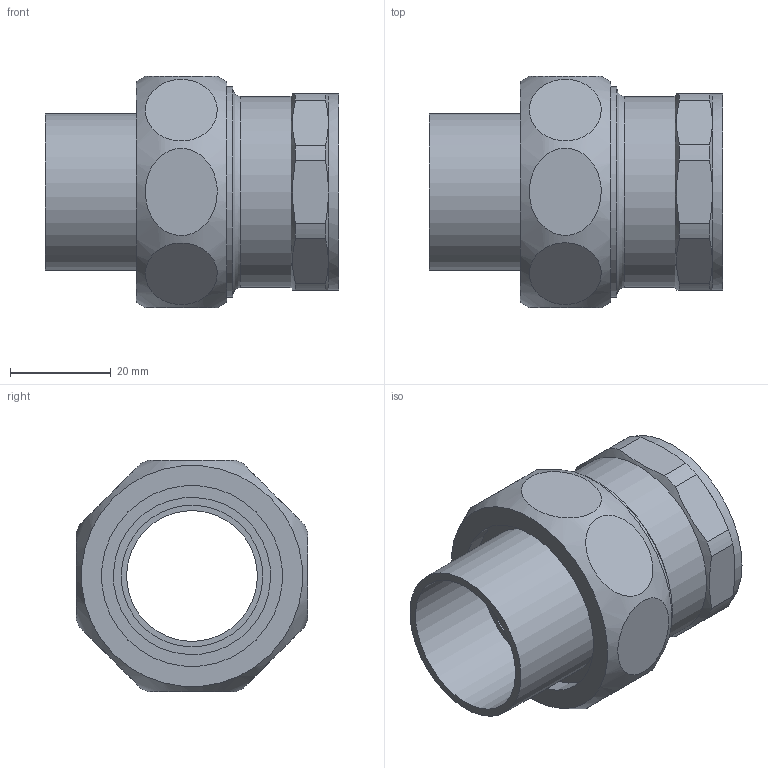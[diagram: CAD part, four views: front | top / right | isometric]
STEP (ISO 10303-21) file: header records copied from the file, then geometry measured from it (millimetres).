
FILE_DESCRIPTION((''),'2;1');
FILE_NAME('\\lg50001\SANHA_Legnica\Engineering\Public\RYSUNKI\SANHA POLSKA\4340\inventor\14340_28-1(1).stp','2014-08-25T14:27:15',('gomulka'),(''),'Autodesk Inventor 2009','Autodesk Inventor 2009','');
FILE_SCHEMA(('AUTOMOTIVE_DESIGN { 1 0 10303 214 1 1 1 1 }'));
Length unit declared in the file: millimetre
Products named in the file (4): 14340_28-1(1); 14380_1-114(4); 14381_28-114(1); 14374_114(1)
Assembly tree (3 placements, depth 2):
  14340_28-1(1)
    14380_1-114(4)
    14381_28-114(1)
    14374_114(1)
Bounding box: 58.26 x 46 x 46 mm (x, y, z)
Volume: 33818.7 mm3; surface area: 20651.3 mm2
Topology: 3 solids, 3 shells, 63 faces, 126 edges, 80 vertices
Faces by surface type: plane 26, cylinder 20, cone 14, bspline 2, torus 1
Full cylindrical faces by diameter (mm): 26 x1, 27 x1, 28.13 x1, 30.291 x1, 31.25 x1, 35.4 x1, 36 x1, 38 x1, 38.4 x1, 38.952 x1, 39 x1, 41.91 x1
Entity records: 2990 total; most frequent: CARTESIAN_POINT 1688, DIRECTION 260, ORIENTED_EDGE 204, AXIS2_PLACEMENT_3D 122, EDGE_CURVE 102, EDGE_LOOP 102, VERTEX_POINT 78, FACE_OUTER_BOUND 63
